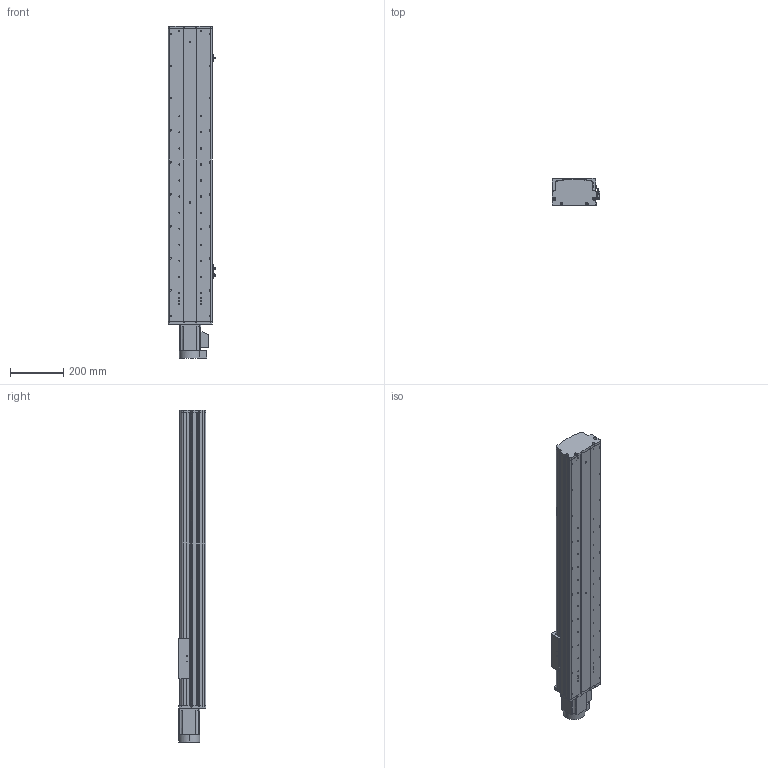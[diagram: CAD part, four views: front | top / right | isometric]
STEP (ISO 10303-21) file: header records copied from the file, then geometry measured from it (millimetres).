
FILE_DESCRIPTION (( 'STEP AP214' ), '1' );
FILE_NAME ('KSD165S-S800-MN-CM.STEP', '2017-08-07T08:16:12', ( '微软用户' ), ( '微软中国' ), 'SwSTEP 2.0', 'SolidWorks 2014', '' );
FILE_SCHEMA (( 'AUTOMOTIVE_DESIGN' ));
Length unit declared in the file: millimetre
Products named in the file (12): KSD165模组底板-800行程-直连不带电机座; 拸秶雄ん750W侜督萇儂; KSD165模组-直连不带电机座电机连接板; KSD165耀郪-佪裝-滅袉菜-3 -; C44ㄜ1912WP; 覜茼え68遵圉猾敕; U倰嫖萇假蚾璃; U倰嫖萇EEㄜSX672; KSD165耀郪-綴傷啣1; KSD165模组-丝杆滑动座-最新版; KSD165S-S800-MN-CM; KSD165模组-防尘盖1-800行程-直连不带电机座
Assembly tree (15 placements, depth 2):
  KSD165S-S800-MN-CM
    KSD165模组-丝杆滑动座-最新版
    KSD165耀郪-綴傷啣1
    U倰嫖萇EEㄜSX672  x3
    U倰嫖萇假蚾璃  x3
    覜茼え68遵圉猾敕
    C44ㄜ1912WP
    KSD165耀郪-佪裝-滅袉菜-3 -
    KSD165模组-直连不带电机座电机连接板
    拸秶雄ん750W侜督萇儂
    KSD165模组底板-800行程-直连不带电机座
    KSD165模组-防尘盖1-800行程-直连不带电机座
Bounding box: 178.7 x 104 x 1243 mm (x, y, z)
Volume: 6963226.1 mm3; surface area: 1537714.7 mm2
Topology: 16 solids, 16 shells, 1217 faces, 3406 edges, 2209 vertices
Faces by surface type: cylinder 643, plane 497, cone 77
Entity records: 38335 total; most frequent: CARTESIAN_POINT 8655, DIRECTION 5695, ORIENTED_EDGE 5492, EDGE_CURVE 2746, AXIS2_PLACEMENT_3D 2137, VERTEX_POINT 1801, VECTOR 1421, LINE 1421
